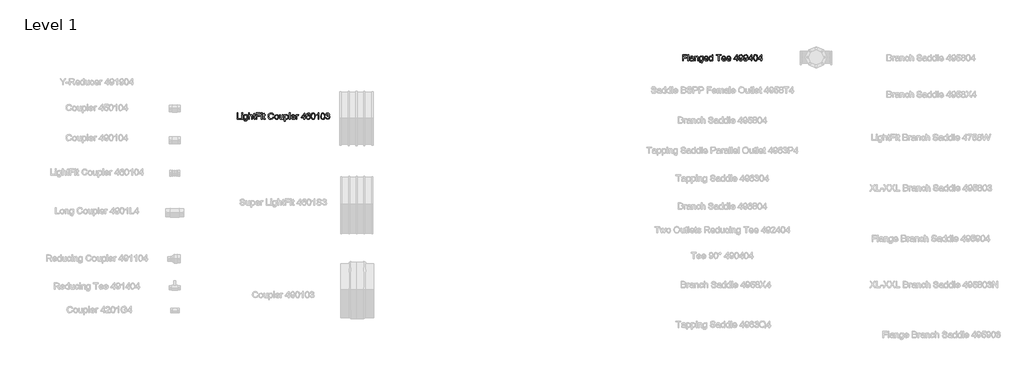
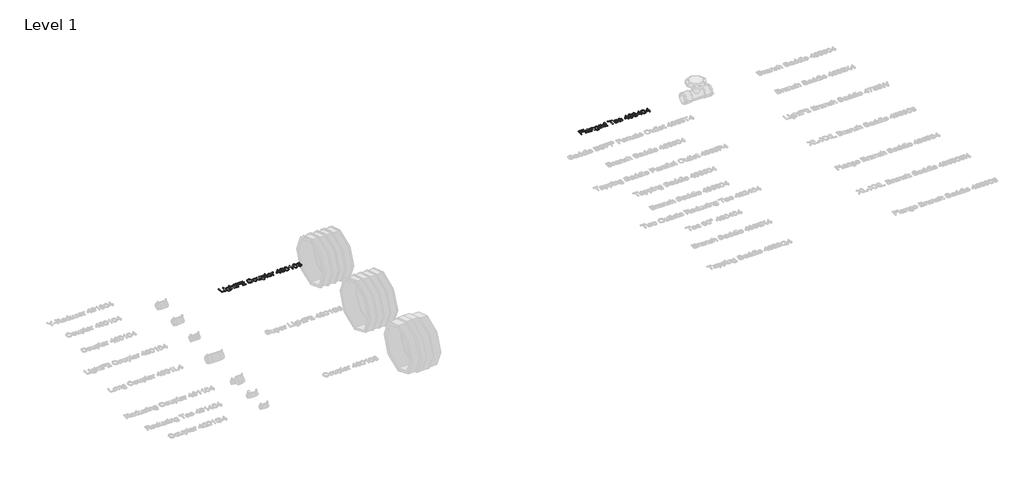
# One storey, part 8 of 41: 2 proxies.
"""IFC4 building model written with IfcOpenShell, lengths in millimetres."""

from ifc_helpers import new_model, si_unit, origin, origin_with_axes, place, context, project, spatial, polyline, outline, extrude, element, save

model = new_model("IFC4")

# Units and contexts
model_context = context("Model", 3, world=origin())
ifc_project = project(units=[si_unit("LENGTHUNIT", "METRE", prefix="MILLI")], contexts=[model_context])

# Site, building, storey
site = spatial("IfcSite", under=ifc_project)
building = spatial("IfcBuilding", under=site)
storey = spatial("IfcBuildingStorey", under=building, Name="Level 1", Elevation=0.0)

# Proxies
placement = place(None, origin())
element("IfcBuildingElementProxy", 1, Name="100 mm Arial", ObjectType="100 mm Arial", at=placement, inside=storey, context=model_context, shape_type="SweptSolid", body=[
    extrude(outline(polyline([(2545.1202247, 4394.3643675), (2545.1202247, 4453.4412905), (2552.5048401, 4453.4412905), (2552.5048401, 4401.7489828), (2582.0433016, 4401.7489828), (2582.0433016, 4394.3643675), (2545.1202247, 4394.3643675)])), origin_with_axes(), (0.0, 0.0, 1.0), 5.0),
    extrude(outline(polyline([(2589.427917, 4446.0566752), (2589.427917, 4453.4412905), (2596.8125324, 4453.4412905), (2596.8125324, 4446.0566752), (2589.427917, 4446.0566752)])), origin_with_axes(), (0.0, 0.0, 1.0), 5.0),
    extrude(outline(polyline([(2589.427917, 4394.3643675), (2589.427917, 4437.7489828), (2596.8125324, 4437.7489828), (2596.8125324, 4394.3643675), (2589.427917, 4394.3643675)])), origin_with_axes(), (0.0, 0.0, 1.0), 5.0),
    extrude(outline(polyline([(2606.0433016, 4390.6720598), (2613.427917, 4389.7489828), (2615.8221478, 4385.8547521), (2622.990417, 4384.2105213), (2630.5481093, 4386.0710982), (2634.1538786, 4391.2922521), (2634.6586863, 4399.902829), (2623.1202247, 4394.3643675), (2615.506643, 4395.9761463), (2609.8293593, 4400.8114828), (2605.1202247, 4416.2730213), (2607.2332055, 4427.7177328), (2613.3485901, 4435.8162905), (2622.7596478, 4438.6720598), (2629.3473882, 4437.0566752), (2634.6586863, 4432.2105213), (2634.6586863, 4437.7489828), (2642.0433016, 4437.7489828), (2642.0433016, 4400.2922521), (2640.0240709, 4385.9485021), (2633.6274363, 4379.277829), (2622.8461863, 4376.8259059), (2610.5649363, 4380.2802328), (2606.0433016, 4390.6720598)]), holes=[polyline([(2612.5048401, 4416.777829), (2615.6562824, 4405.3475405), (2623.5673401, 4401.7489828), (2631.4639747, 4405.3259059), (2634.6586863, 4416.5614828), (2631.3702247, 4427.5735021), (2623.4519555, 4431.2874444), (2615.6995516, 4427.6311944), (2612.5048401, 4416.777829)])]), origin_with_axes(), (0.0, 0.0, 1.0), 5.0),
    extrude(outline(polyline([(2653.1202247, 4394.3643675), (2653.1202247, 4453.4412905), (2660.5048401, 4453.4412905), (2660.5048401, 4431.7201367), (2666.2632536, 4436.934079), (2673.3558016, 4438.6720598), (2681.6490709, 4436.7754252), (2686.6827247, 4431.5326367), (2688.1971478, 4421.8259059), (2688.1971478, 4394.3643675), (2680.8125324, 4394.3643675), (2680.8125324, 4421.0614828), (2678.4615709, 4428.8499444), (2671.7981093, 4431.2874444), (2665.7476286, 4429.6432136), (2661.709167, 4425.1864828), (2660.5048401, 4417.4124444), (2660.5048401, 4394.3643675), (2653.1202247, 4394.3643675)])), origin_with_axes(), (0.0, 0.0, 1.0), 5.0),
    extrude(outline(polyline([(2714.0433016, 4400.5230213), (2714.9663786, 4394.1480213), (2709.4423401, 4393.4412905), (2703.2548401, 4394.6672521), (2700.1683016, 4397.8835982), (2699.2740709, 4406.2634059), (2699.2740709, 4430.3643675), (2693.7356093, 4430.3643675), (2693.7356093, 4437.7489828), (2699.2740709, 4437.7489828), (2699.2740709, 4448.2922521), (2706.6586863, 4452.6335982), (2706.6586863, 4437.7489828), (2714.0433016, 4437.7489828), (2714.0433016, 4430.3643675), (2706.6586863, 4430.3643675), (2706.6586863, 4406.4797521), (2707.0481093, 4402.6720598), (2708.3101286, 4401.3235021), (2710.8269555, 4400.8259059), (2714.0433016, 4400.5230213)])), origin_with_axes(), (0.0, 0.0, 1.0), 5.0),
    extrude(outline(polyline([(2722.3509939, 4394.3643675), (2722.3509939, 4453.4412905), (2762.0433016, 4453.4412905), (2762.0433016, 4446.0566752), (2729.7356093, 4446.0566752), (2729.7356093, 4428.5182136), (2757.427917, 4428.5182136), (2757.427917, 4421.1335982), (2729.7356093, 4421.1335982), (2729.7356093, 4394.3643675), (2722.3509939, 4394.3643675)])), origin_with_axes(), (0.0, 0.0, 1.0), 5.0),
    extrude(outline(polyline([(2771.2740709, 4394.3643675), (2771.2740709, 4437.7489828), (2778.6586863, 4437.7489828), (2778.6586863, 4394.3643675), (2771.2740709, 4394.3643675)])), origin_with_axes(), (0.0, 0.0, 1.0), 5.0),
    extrude(outline(polyline([(2771.2740709, 4446.0566752), (2771.2740709, 4453.4412905), (2778.6586863, 4453.4412905), (2778.6586863, 4446.0566752), (2771.2740709, 4446.0566752)])), origin_with_axes(), (0.0, 0.0, 1.0), 5.0),
    extrude(outline(polyline([(2805.427917, 4400.5230213), (2806.3509939, 4394.1480213), (2800.8269555, 4393.4412905), (2794.6394555, 4394.6672521), (2791.552917, 4397.8835982), (2790.6586863, 4406.2634059), (2790.6586863, 4430.3643675), (2785.1202247, 4430.3643675), (2785.1202247, 4437.7489828), (2790.6586863, 4437.7489828), (2790.6586863, 4448.2922521), (2798.0433016, 4452.6335982), (2798.0433016, 4437.7489828), (2805.427917, 4437.7489828), (2805.427917, 4430.3643675), (2798.0433016, 4430.3643675), (2798.0433016, 4406.4797521), (2798.4327247, 4402.6720598), (2799.6947439, 4401.3235021), (2802.2115709, 4400.8259059), (2805.427917, 4400.5230213)])), origin_with_axes(), (0.0, 0.0, 1.0), 5.0),
    extrude(outline(polyline([(2878.3509939, 4415.3643675), (2885.7356093, 4413.4605213), (2876.9808016, 4398.5686944), (2861.5192632, 4393.4412905), (2846.1514747, 4397.3210982), (2837.1370516, 4408.5566752), (2834.0433016, 4424.3499444), (2837.5408978, 4440.402829), (2847.4856093, 4450.809079), (2861.677917, 4454.3643675), (2876.4687824, 4449.7634059), (2884.8125324, 4436.8114828), (2877.427917, 4435.0518675), (2871.3702247, 4444.1311944), (2861.3894555, 4446.9797521), (2849.8365709, 4443.8210982), (2843.3101286, 4435.340329), (2841.427917, 4424.3643675), (2843.6562824, 4411.6432136), (2850.5937824, 4403.5158098), (2860.7836863, 4400.8259059), (2872.084167, 4404.4893675), (2878.3509939, 4415.3643675)])), origin_with_axes(), (0.0, 0.0, 1.0), 5.0),
    extrude(outline(polyline([(2893.1202247, 4416.0566752), (2894.7175805, 4426.5170117), (2899.5096478, 4433.8691752), (2912.5192632, 4438.6720598), (2920.2770757, 4437.2099203), (2926.4735901, 4432.8235021), (2930.5354891, 4425.8589588), (2931.8894555, 4416.6624444), (2929.4952247, 4403.5230213), (2922.521667, 4396.0879252), (2912.5192632, 4393.4412905), (2904.6677007, 4394.8980213), (2898.4783978, 4399.2682136), (2894.459768, 4406.3787905), (2893.1202247, 4416.0566752)]), holes=[polyline([(2900.5048401, 4416.0710982), (2903.9231093, 4404.6263867), (2912.5192632, 4400.8259059), (2921.0865709, 4404.6480213), (2924.5048401, 4416.3018675), (2921.0649363, 4427.4869636), (2912.5192632, 4431.2874444), (2903.9231093, 4427.5013867), (2900.5048401, 4416.0710982)])]), origin_with_axes(), (0.0, 0.0, 1.0), 5.0),
    extrude(outline(polyline([(2967.8894555, 4394.3643675), (2967.8894555, 4401.8210982), (2962.1058016, 4395.5362425), (2954.5625324, 4393.4412905), (2947.6178209, 4394.9124444), (2942.8293593, 4398.6047521), (2940.6298401, 4404.0422521), (2940.1971478, 4410.9076367), (2940.1971478, 4437.7489828), (2947.5817632, 4437.7489828), (2947.5817632, 4414.3835982), (2948.0288786, 4406.8547521), (2950.9495516, 4402.434079), (2956.4519555, 4400.8259059), (2962.6178209, 4402.4701367), (2966.6923401, 4406.9485021), (2967.8894555, 4415.1768675), (2967.8894555, 4437.7489828), (2975.2740709, 4437.7489828), (2975.2740709, 4394.3643675), (2967.8894555, 4394.3643675)])), origin_with_axes(), (0.0, 0.0, 1.0), 5.0),
    extrude(outline(polyline([(2985.427917, 4377.7489828), (2985.427917, 4437.7489828), (2992.8125324, 4437.7489828), (2992.8125324, 4430.5085982), (2997.9183016, 4436.6311944), (3004.8125324, 4438.6720598), (3014.1731093, 4435.8162905), (3020.2884939, 4427.7682136), (3022.3509939, 4416.3884059), (3020.021667, 4404.4244636), (3013.2572439, 4396.2754252), (3003.9183016, 4393.4412905), (2997.4928209, 4395.3379252), (2992.8125324, 4400.1335982), (2992.8125324, 4377.7489828), (2985.427917, 4377.7489828)]), holes=[polyline([(2992.8125324, 4415.7105213), (2996.0072439, 4404.4605213), (3003.7596478, 4400.8259059), (3011.6707055, 4404.590329), (3014.9663786, 4416.2585982), (3011.7500324, 4427.5374444), (3004.0625324, 4431.2874444), (2996.2235901, 4427.2994636), (2992.8125324, 4415.7105213)])]), origin_with_axes(), (0.0, 0.0, 1.0), 5.0),
    extrude(outline(polyline([(3030.6586863, 4394.3643675), (3030.6586863, 4453.4412905), (3038.0433016, 4453.4412905), (3038.0433016, 4394.3643675), (3030.6586863, 4394.3643675)])), origin_with_axes(), (0.0, 0.0, 1.0), 5.0),
    extrude(outline(polyline([(3079.4952247, 4407.2874444), (3086.7356093, 4406.3643675), (3079.9639747, 4396.8307136), (3067.3509939, 4393.4412905), (3058.6863305, 4394.90343), (3052.0192632, 4399.2898482), (3047.7680613, 4406.3156896), (3046.3509939, 4415.6960982), (3047.7824843, 4425.3920117), (3052.0769555, 4432.6432136), (3058.6538786, 4437.1648482), (3066.9327247, 4438.6720598), (3074.9537584, 4437.168454), (3081.3630132, 4432.6576367), (3085.5655372, 4425.4208578), (3086.9663786, 4415.7393675), (3086.9231093, 4413.7489828), (3053.7356093, 4413.7489828), (3057.9832055, 4404.1576367), (3067.4952247, 4400.8259059), (3074.7356093, 4402.3691752), (3079.4952247, 4407.2874444)]), holes=[polyline([(3053.7356093, 4421.1335982), (3079.5817632, 4421.1335982), (3076.6250324, 4427.8259059), (3066.9038786, 4431.2874444), (3057.8101286, 4428.5254252), (3053.7356093, 4421.1335982)])]), origin_with_axes(), (0.0, 0.0, 1.0), 5.0),
    extrude(outline(polyline([(3094.3509939, 4394.3643675), (3094.3509939, 4437.7489828), (3100.8125324, 4437.7489828), (3100.8125324, 4431.3307136), (3105.3990709, 4437.2441752), (3110.0144555, 4438.6720598), (3117.427917, 4436.3932136), (3114.9615709, 4429.7730213), (3109.7692632, 4431.2874444), (3105.5937824, 4429.8307136), (3102.9327247, 4425.7922521), (3101.7356093, 4417.1672521), (3101.7356093, 4394.3643675), (3094.3509939, 4394.3643675)])), origin_with_axes(), (0.0, 0.0, 1.0), 5.0),
    extrude(outline(polyline([(3167.2740709, 4394.3643675), (3167.2740709, 4408.2105213), (3140.5048401, 4408.2105213), (3140.5048401, 4415.5951367), (3169.1202247, 4452.5182136), (3174.6586863, 4452.5182136), (3174.6586863, 4415.5951367), (3182.0433016, 4415.5951367), (3182.0433016, 4408.2105213), (3174.6586863, 4408.2105213), (3174.6586863, 4394.3643675), (3167.2740709, 4394.3643675)]), holes=[polyline([(3167.2740709, 4415.5951367), (3167.2740709, 4438.4124444), (3149.5913786, 4415.5951367), (3167.2740709, 4415.5951367)])]), origin_with_axes(), (0.0, 0.0, 1.0), 5.0),
    extrude(outline(polyline([(3226.3509939, 4437.7489828), (3218.9663786, 4436.8259059), (3216.1683016, 4442.9845598), (3208.7692632, 4446.0566752), (3202.1058016, 4444.2682136), (3197.0649363, 4437.5542713), (3194.9663786, 4424.3932136), (3201.4783978, 4430.2850405), (3209.5481093, 4432.2105213), (3222.0961863, 4426.9460982), (3227.2740709, 4413.3451367), (3224.8365709, 4403.1552328), (3218.1298401, 4395.9436944), (3208.4519555, 4393.4412905), (3200.0739507, 4395.0999444), (3193.4014747, 4400.0759059), (3189.0366911, 4408.8595598), (3187.5817632, 4421.9412905), (3189.1971478, 4436.6492232), (3194.0433016, 4446.7057136), (3200.6598882, 4451.7573963), (3209.2308016, 4453.4412905), (3220.8990709, 4449.2730213), (3226.3509939, 4437.7489828)]), holes=[polyline([(3194.9663786, 4413.4605213), (3196.6755132, 4407.0638867), (3201.2187824, 4402.4196559), (3207.8750324, 4400.8259059), (3216.5793593, 4404.1287905), (3219.8894555, 4413.0999444), (3216.6226286, 4421.6888867), (3207.5721478, 4424.8259059), (3198.6370516, 4421.6888867), (3194.9663786, 4413.4605213)])]), origin_with_axes(), (0.0, 0.0, 1.0), 5.0),
    extrude(outline(polyline([(3233.7356093, 4423.4268675), (3235.9062824, 4440.4244636), (3242.3533978, 4450.2249444), (3253.1202247, 4453.4412905), (3261.7452247, 4451.5374444), (3267.7019555, 4446.0494636), (3271.1634939, 4437.309079), (3272.5048401, 4423.4268675), (3270.3558016, 4406.5013867), (3263.9303209, 4396.6792713), (3253.1202247, 4393.4412905), (3245.4471478, 4394.8475405), (3239.6202247, 4399.0662905), (3235.2067632, 4409.0578771), (3233.7356093, 4423.4268675)]), holes=[polyline([(3241.1202247, 4423.4412905), (3244.5817632, 4405.1023482), (3253.1202247, 4400.8259059), (3261.6586863, 4405.1167713), (3265.1202247, 4423.4412905), (3261.7740709, 4441.5710982), (3253.0336863, 4446.0566752), (3244.6971478, 4442.1047521), (3241.1202247, 4423.4412905)])]), origin_with_axes(), (0.0, 0.0, 1.0), 5.0),
    extrude(outline(polyline([(3306.6586863, 4394.3643675), (3299.2740709, 4394.3643675), (3299.2740709, 4440.402829), (3292.2788786, 4435.4196559), (3284.5048401, 4431.6912905), (3284.5048401, 4438.6720598), (3295.3293593, 4445.5807136), (3301.8990709, 4453.4412905), (3306.6586863, 4453.4412905), (3306.6586863, 4394.3643675)])), origin_with_axes(), (0.0, 0.0, 1.0), 5.0),
    extrude(outline(polyline([(3324.1971478, 4423.4268675), (3326.3678209, 4440.4244636), (3332.8149363, 4450.2249444), (3343.5817632, 4453.4412905), (3352.2067632, 4451.5374444), (3358.1634939, 4446.0494636), (3361.6250324, 4437.309079), (3362.9663786, 4423.4268675), (3360.8173401, 4406.5013867), (3354.3918593, 4396.6792713), (3343.5817632, 4393.4412905), (3335.9086863, 4394.8475405), (3330.0817632, 4399.0662905), (3325.6683016, 4409.0578771), (3324.1971478, 4423.4268675)]), holes=[polyline([(3331.5817632, 4423.4412905), (3335.0433016, 4405.1023482), (3343.5817632, 4400.8259059), (3352.1202247, 4405.1167713), (3355.5817632, 4423.4412905), (3352.2356093, 4441.5710982), (3343.4952247, 4446.0566752), (3335.1586863, 4442.1047521), (3331.5817632, 4423.4412905)])]), origin_with_axes(), (0.0, 0.0, 1.0), 5.0),
    extrude(outline(polyline([(3369.427917, 4410.0566752), (3376.8125324, 4410.9797521), (3380.8870516, 4403.2057136), (3388.5096478, 4400.8259059), (3397.4808016, 4404.0999444), (3400.8125324, 4412.2057136), (3397.5096478, 4419.8427328), (3389.115417, 4422.8643675), (3383.9375324, 4422.0566752), (3384.7596478, 4429.4412905), (3394.3221478, 4431.4749444), (3398.0433016, 4437.9941752), (3395.3461863, 4443.7706175), (3388.3942632, 4446.0566752), (3381.3558016, 4443.7489828), (3377.7356093, 4436.8259059), (3370.3509939, 4437.7489828), (3376.3942632, 4449.3307136), (3388.1346478, 4453.4412905), (3397.0408978, 4451.4148482), (3403.271667, 4445.8763867), (3405.427917, 4438.4268675), (3403.3798401, 4431.6191752), (3397.3221478, 4426.7297521), (3405.3702247, 4421.6816752), (3408.1971478, 4412.0759059), (3402.5433016, 4398.8643675), (3388.2500324, 4393.4412905), (3375.2981093, 4398.0710982), (3369.427917, 4410.0566752)])), origin_with_axes(), (0.0, 0.0, 1.0), 5.0),
])
element("IfcBuildingElementProxy", 2, Name="100 mm Arial", ObjectType="100 mm Arial", at=placement, inside=storey, context=model_context, shape_type="SweptSolid", body=[
    extrude(outline(polyline([(6689.6731533, 4937.5779735), (6689.6731533, 4996.6548966), (6729.365461, 4996.6548966), (6729.365461, 4989.2702812), (6697.0577687, 4989.2702812), (6697.0577687, 4971.7318197), (6724.7500764, 4971.7318197), (6724.7500764, 4964.3472043), (6697.0577687, 4964.3472043), (6697.0577687, 4937.5779735), (6689.6731533, 4937.5779735)])), origin_with_axes(), (0.0, 0.0, 1.0), 5.0),
    extrude(outline(polyline([(6738.5962303, 4937.5779735), (6738.5962303, 4996.6548966), (6745.9808456, 4996.6548966), (6745.9808456, 4937.5779735), (6738.5962303, 4937.5779735)])), origin_with_axes(), (0.0, 0.0, 1.0), 5.0),
    extrude(outline(polyline([(6784.7500764, 4943.1164351), (6777.5890187, 4938.1116274), (6769.677961, 4936.6548966), (6758.9544033, 4940.1597043), (6755.2116149, 4949.1164351), (6756.6250764, 4954.9577812), (6760.3390187, 4959.1981658), (6765.5096918, 4961.6212428), (6771.8991149, 4962.7318197), (6784.7068072, 4965.2702812), (6784.7500764, 4966.914512), (6782.7164226, 4972.3664351), (6774.552961, 4974.5010505), (6767.0818072, 4973.0803774), (6763.5193072, 4968.039512), (6756.1346918, 4968.9625889), (6759.3294033, 4976.1741274), (6765.7620956, 4980.4000889), (6775.5048841, 4981.8856658), (6784.4544033, 4980.5731658), (6789.5096918, 4977.2774928), (6791.7741149, 4972.2654735), (6792.1346918, 4965.8039351), (6792.1346918, 4956.6164351), (6792.5096918, 4943.7871082), (6793.9808456, 4937.5779735), (6786.5962303, 4937.5779735), (6784.7500764, 4943.1164351)]), holes=[polyline([(6784.7500764, 4957.8856658), (6772.8366149, 4955.6212428), (6766.4832495, 4954.4241274), (6763.6058456, 4952.477012), (6762.5962303, 4949.6356658), (6764.7957495, 4945.6404735), (6771.2500764, 4944.039512), (6778.7212303, 4945.8063389), (6783.538538, 4950.0827812), (6784.7068072, 4955.7943197), (6784.7500764, 4957.8856658)])]), origin_with_axes(), (0.0, 0.0, 1.0), 5.0),
    extrude(outline(polyline([(6802.288538, 4937.5779735), (6802.288538, 4980.9625889), (6809.6731533, 4980.9625889), (6809.6731533, 4974.9048966), (6815.319788, 4980.1404735), (6823.0289226, 4981.8856658), (6830.0024803, 4980.4794158), (6834.7620956, 4976.7871082), (6836.976038, 4971.3568197), (6837.365461, 4964.2173966), (6837.365461, 4937.5779735), (6829.9808456, 4937.5779735), (6829.9808456, 4963.2222043), (6829.1298841, 4969.7558582), (6826.1226726, 4973.2101851), (6821.052961, 4974.5010505), (6813.0409418, 4971.602012), (6809.6731533, 4960.5972043), (6809.6731533, 4937.5779735), (6802.288538, 4937.5779735)])), origin_with_axes(), (0.0, 0.0, 1.0), 5.0),
    extrude(outline(polyline([(6845.6731533, 4933.8856658), (6853.0577687, 4932.9625889), (6855.4519995, 4929.0683582), (6862.6202687, 4927.4241274), (6870.177961, 4929.2847043), (6873.7837303, 4934.5058582), (6874.288538, 4943.1164351), (6862.7500764, 4937.5779735), (6855.1364947, 4939.1897524), (6849.459211, 4944.0250889), (6844.7500764, 4959.4866274), (6846.8630572, 4970.9313389), (6852.9784418, 4979.0298966), (6862.3894995, 4981.8856658), (6868.9772399, 4980.2702812), (6874.288538, 4975.4241274), (6874.288538, 4980.9625889), (6881.6731533, 4980.9625889), (6881.6731533, 4943.5058582), (6879.6539226, 4929.1621082), (6873.257288, 4922.4914351), (6862.476038, 4920.039512), (6850.194788, 4923.4938389), (6845.6731533, 4933.8856658)]), holes=[polyline([(6852.1346918, 4959.9914351), (6855.2861341, 4948.5611466), (6863.1971918, 4944.9625889), (6871.0938264, 4948.539512), (6874.288538, 4959.7750889), (6871.0000764, 4970.7871082), (6863.0818072, 4974.5010505), (6855.3294033, 4970.8448005), (6852.1346918, 4959.9914351)])]), origin_with_axes(), (0.0, 0.0, 1.0), 5.0),
    extrude(outline(polyline([(6923.1250764, 4950.5010505), (6930.365461, 4949.5779735), (6923.5938264, 4940.0443197), (6910.9808456, 4936.6548966), (6902.3161822, 4938.117036), (6895.6491149, 4942.5034543), (6891.397913, 4949.5292957), (6889.9808456, 4958.9097043), (6891.412336, 4968.6056178), (6895.7068072, 4975.8568197), (6902.2837303, 4980.3784543), (6910.5625764, 4981.8856658), (6918.5836101, 4980.3820601), (6924.9928649, 4975.8712428), (6929.1953889, 4968.6344639), (6930.5962303, 4958.9529735), (6930.552961, 4956.9625889), (6897.365461, 4956.9625889), (6901.6130572, 4947.3712428), (6911.1250764, 4944.039512), (6918.365461, 4945.5827812), (6923.1250764, 4950.5010505)]), holes=[polyline([(6897.365461, 4964.3472043), (6923.2116149, 4964.3472043), (6920.2548841, 4971.039512), (6910.5337303, 4974.5010505), (6901.4399803, 4971.7390312), (6897.365461, 4964.3472043)])]), origin_with_axes(), (0.0, 0.0, 1.0), 5.0),
    extrude(outline(polyline([(6964.7500764, 4937.5779735), (6964.7500764, 4944.5443197), (6959.8642591, 4938.6272524), (6953.1106533, 4936.6548966), (6943.9664226, 4939.5106658), (6937.5048841, 4947.4794158), (6935.2116149, 4959.227012), (6937.3245956, 4970.9818197), (6943.6563264, 4979.0731658), (6953.0818072, 4981.8856658), (6959.8894995, 4979.8736466), (6964.7500764, 4974.6452812), (6964.7500764, 4996.6548966), (6972.1346918, 4996.6548966), (6972.1346918, 4937.5779735), (6964.7500764, 4937.5779735)]), holes=[polyline([(6942.5962303, 4959.2558582), (6945.927961, 4947.8255697), (6953.788538, 4944.039512), (6961.5553649, 4947.6524928), (6964.7500764, 4958.6933582), (6961.4976726, 4970.6789351), (6953.4856533, 4974.5010505), (6945.7116149, 4970.8303774), (6942.5962303, 4959.2558582)])]), origin_with_axes(), (0.0, 0.0, 1.0), 5.0),
    extrude(outline(polyline([(7021.9808456, 4937.5779735), (7021.9808456, 4989.2702812), (7002.5962303, 4989.2702812), (7002.5962303, 4996.6548966), (7048.7500764, 4996.6548966), (7048.7500764, 4989.2702812), (7029.365461, 4989.2702812), (7029.365461, 4937.5779735), (7021.9808456, 4937.5779735)])), origin_with_axes(), (0.0, 0.0, 1.0), 5.0),
    extrude(outline(polyline([(7086.5096918, 4950.5010505), (7093.7500764, 4949.5779735), (7086.9784418, 4940.0443197), (7074.365461, 4936.6548966), (7065.7007976, 4938.117036), (7059.0337303, 4942.5034543), (7054.7825283, 4949.5292957), (7053.365461, 4958.9097043), (7054.7969514, 4968.6056178), (7059.0914226, 4975.8568197), (7065.6683456, 4980.3784543), (7073.9471918, 4981.8856658), (7081.9682255, 4980.3820601), (7088.3774803, 4975.8712428), (7092.5800043, 4968.6344639), (7093.9808456, 4958.9529735), (7093.9375764, 4956.9625889), (7060.7500764, 4956.9625889), (7064.9976726, 4947.3712428), (7074.5096918, 4944.039512), (7081.7500764, 4945.5827812), (7086.5096918, 4950.5010505)]), holes=[polyline([(7060.7500764, 4964.3472043), (7086.5962303, 4964.3472043), (7083.6394995, 4971.039512), (7073.9183456, 4974.5010505), (7064.8245956, 4971.7390312), (7060.7500764, 4964.3472043)])]), origin_with_axes(), (0.0, 0.0, 1.0), 5.0),
    extrude(outline(polyline([(7131.740461, 4950.5010505), (7138.9808456, 4949.5779735), (7132.209211, 4940.0443197), (7119.5962303, 4936.6548966), (7110.9315668, 4938.117036), (7104.2644995, 4942.5034543), (7100.0132976, 4949.5292957), (7098.5962303, 4958.9097043), (7100.0277206, 4968.6056178), (7104.3221918, 4975.8568197), (7110.8991149, 4980.3784543), (7119.177961, 4981.8856658), (7127.1989947, 4980.3820601), (7133.6082495, 4975.8712428), (7137.8107735, 4968.6344639), (7139.2116149, 4958.9529735), (7139.1683456, 4956.9625889), (7105.9808456, 4956.9625889), (7110.2284418, 4947.3712428), (7119.740461, 4944.039512), (7126.9808456, 4945.5827812), (7131.740461, 4950.5010505)]), holes=[polyline([(7105.9808456, 4964.3472043), (7131.8269995, 4964.3472043), (7128.8702687, 4971.039512), (7119.1491149, 4974.5010505), (7110.0553649, 4971.7390312), (7105.9808456, 4964.3472043)])]), origin_with_axes(), (0.0, 0.0, 1.0), 5.0),
    extrude(outline(polyline([(7191.8269995, 4937.5779735), (7191.8269995, 4951.4241274), (7165.0577687, 4951.4241274), (7165.0577687, 4958.8087428), (7193.6731533, 4995.7318197), (7199.2116149, 4995.7318197), (7199.2116149, 4958.8087428), (7206.5962303, 4958.8087428), (7206.5962303, 4951.4241274), (7199.2116149, 4951.4241274), (7199.2116149, 4937.5779735), (7191.8269995, 4937.5779735)]), holes=[polyline([(7191.8269995, 4958.8087428), (7191.8269995, 4981.6260505), (7174.1443072, 4958.8087428), (7191.8269995, 4958.8087428)])]), origin_with_axes(), (0.0, 0.0, 1.0), 5.0),
    extrude(outline(polyline([(7213.9808456, 4952.3472043), (7221.365461, 4953.2702812), (7224.6827687, 4946.2246082), (7230.9712303, 4944.039512), (7236.9495956, 4945.445762), (7241.0024803, 4949.2029735), (7243.4183456, 4955.6212428), (7244.4856533, 4964.1885505), (7238.5361341, 4960.0347043), (7230.4375764, 4957.8856658), (7218.0986341, 4963.1356658), (7213.0577687, 4976.9673966), (7218.3438264, 4991.2462428), (7231.5914226, 4996.6548966), (7242.1130572, 4993.5683582), (7249.3534418, 4984.7702812), (7251.8269995, 4968.2414351), (7249.3606533, 4950.3063389), (7242.0265187, 4940.1452812), (7230.6250764, 4936.6548966), (7219.2741149, 4940.7726851), (7213.9808456, 4952.3472043)]), holes=[polyline([(7244.4423841, 4977.1404735), (7241.2548841, 4985.9962428), (7232.788538, 4989.2702812), (7223.9039226, 4985.7438389), (7220.4423841, 4976.6068197), (7223.7164226, 4968.4217235), (7232.5866149, 4965.2702812), (7241.1034418, 4968.4217235), (7244.4423841, 4977.1404735)])]), origin_with_axes(), (0.0, 0.0, 1.0), 5.0),
    extrude(outline(polyline([(7259.2116149, 4952.3472043), (7266.5962303, 4953.2702812), (7269.913538, 4946.2246082), (7276.2019995, 4944.039512), (7282.1803649, 4945.445762), (7286.2332495, 4949.2029735), (7288.6491149, 4955.6212428), (7289.7164226, 4964.1885505), (7283.7669033, 4960.0347043), (7275.6683456, 4957.8856658), (7263.3294033, 4963.1356658), (7258.288538, 4976.9673966), (7263.5745956, 4991.2462428), (7276.8221918, 4996.6548966), (7287.3438264, 4993.5683582), (7294.584211, 4984.7702812), (7297.0577687, 4968.2414351), (7294.5914226, 4950.3063389), (7287.257288, 4940.1452812), (7275.8558456, 4936.6548966), (7264.5048841, 4940.7726851), (7259.2116149, 4952.3472043)]), holes=[polyline([(7289.6731533, 4977.1404735), (7286.4856533, 4985.9962428), (7278.0193072, 4989.2702812), (7269.1346918, 4985.7438389), (7265.6731533, 4976.6068197), (7268.9471918, 4968.4217235), (7277.8173841, 4965.2702812), (7286.334211, 4968.4217235), (7289.6731533, 4977.1404735)])]), origin_with_axes(), (0.0, 0.0, 1.0), 5.0),
    extrude(outline(polyline([(7327.5193072, 4937.5779735), (7327.5193072, 4951.4241274), (7300.7500764, 4951.4241274), (7300.7500764, 4958.8087428), (7329.365461, 4995.7318197), (7334.9039226, 4995.7318197), (7334.9039226, 4958.8087428), (7342.288538, 4958.8087428), (7342.288538, 4951.4241274), (7334.9039226, 4951.4241274), (7334.9039226, 4937.5779735), (7327.5193072, 4937.5779735)]), holes=[polyline([(7327.5193072, 4958.8087428), (7327.5193072, 4981.6260505), (7309.8366149, 4958.8087428), (7327.5193072, 4958.8087428)])]), origin_with_axes(), (0.0, 0.0, 1.0), 5.0),
    extrude(outline(polyline([(7348.7500764, 4966.6404735), (7350.9207495, 4983.6380697), (7357.3678649, 4993.4385505), (7368.1346918, 4996.6548966), (7376.7596918, 4994.7510505), (7382.7164226, 4989.2630697), (7386.177961, 4980.5226851), (7387.5193072, 4966.6404735), (7385.3702687, 4949.7149928), (7378.944788, 4939.8928774), (7368.1346918, 4936.6548966), (7360.4616149, 4938.0611466), (7354.6346918, 4942.2798966), (7350.2212303, 4952.2714832), (7348.7500764, 4966.6404735)]), holes=[polyline([(7356.1346918, 4966.6548966), (7359.5962303, 4948.3159543), (7368.1346918, 4944.039512), (7376.6731533, 4948.3303774), (7380.1346918, 4966.6548966), (7376.788538, 4984.7847043), (7368.0481533, 4989.2702812), (7359.7116149, 4985.3183582), (7356.1346918, 4966.6548966)])]), origin_with_axes(), (0.0, 0.0, 1.0), 5.0),
    extrude(outline(polyline([(7417.9808456, 4937.5779735), (7417.9808456, 4951.4241274), (7391.2116149, 4951.4241274), (7391.2116149, 4958.8087428), (7419.8269995, 4995.7318197), (7425.365461, 4995.7318197), (7425.365461, 4958.8087428), (7432.7500764, 4958.8087428), (7432.7500764, 4951.4241274), (7425.365461, 4951.4241274), (7425.365461, 4937.5779735), (7417.9808456, 4937.5779735)]), holes=[polyline([(7417.9808456, 4958.8087428), (7417.9808456, 4981.6260505), (7400.2981533, 4958.8087428), (7417.9808456, 4958.8087428)])]), origin_with_axes(), (0.0, 0.0, 1.0), 5.0),
])

save(model, "model.ifc")
